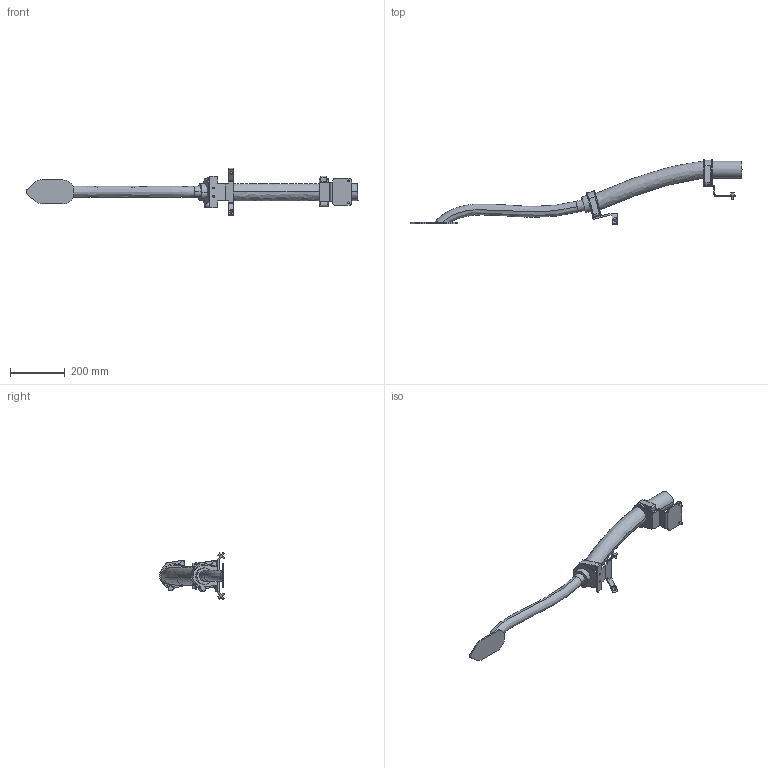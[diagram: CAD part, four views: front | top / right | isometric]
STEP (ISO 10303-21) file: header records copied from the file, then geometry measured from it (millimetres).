
FILE_DESCRIPTION (( 'STEP AP214' ), '1' );
FILE_NAME ('IRB6760-MH3_200kg-320_OC_00_LINK04_CABLE.step', '2025-09-30T13:14:42', ( '' ), ( '' ), 'SwSTEP 2.0', 'SolidWorks 2024', '' );
FILE_SCHEMA (( 'AUTOMOTIVE_DESIGN' ));
Length unit declared in the file: millimetre
Products named in the file (1): IRB6760-MH3_200kg-320_OC_00_LINK04_CABLE
Bounding box: 1217.81 x 238.88 x 174.65 mm (x, y, z)
Volume: 3002102.8 mm3; surface area: 303669.9 mm2
Topology: 1 solids, 1 shells, 281 faces, 749 edges, 483 vertices
Faces by surface type: plane 182, cylinder 89, bspline 6, cone 4
Entity records: 12787 total; most frequent: CARTESIAN_POINT 5623, ORIENTED_EDGE 1498, DIRECTION 1496, EDGE_CURVE 749, VECTOR 518, LINE 518, AXIS2_PLACEMENT_3D 489, VERTEX_POINT 483
